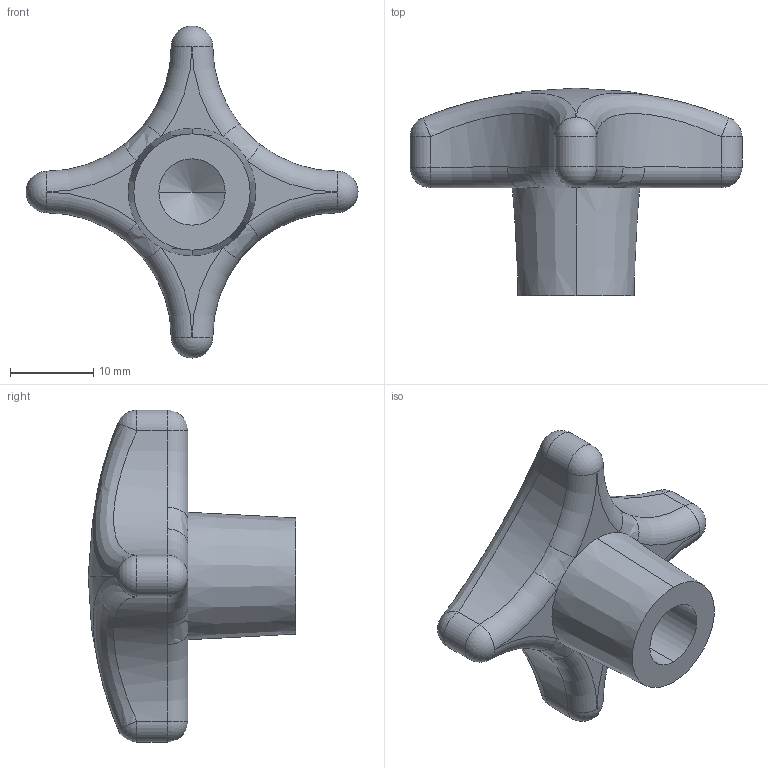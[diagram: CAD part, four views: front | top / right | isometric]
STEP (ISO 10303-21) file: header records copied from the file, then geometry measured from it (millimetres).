
FILE_DESCRIPTION (( 'STEP AP203' ), '1' );
FILE_NAME ('7000.W240.step', '2010-01-29T17:36:19', ( 'Wixroyd' ), ( 'Wixroyd' ), 'SwSTEP 2.0', 'SolidWorks 2009', '' );
FILE_SCHEMA (( 'CONFIG_CONTROL_DESIGN' ));
Length unit declared in the file: millimetre
Products named in the file (1): 7000.W240
Bounding box: 40 x 25 x 40 mm (x, y, z)
Volume: 6981 mm3; surface area: 3144.3 mm2
Topology: 1 solids, 1 shells, 46 faces, 103 edges, 54 vertices
Faces by surface type: cylinder 11, sphere 10, torus 8, bspline 8, plane 5, cone 4
Entity records: 4416 total; most frequent: CARTESIAN_POINT 3350, DIRECTION 233, ORIENTED_EDGE 194, AXIS2_PLACEMENT_3D 109, EDGE_CURVE 97, CIRCLE 70, VERTEX_POINT 54, EDGE_LOOP 47
